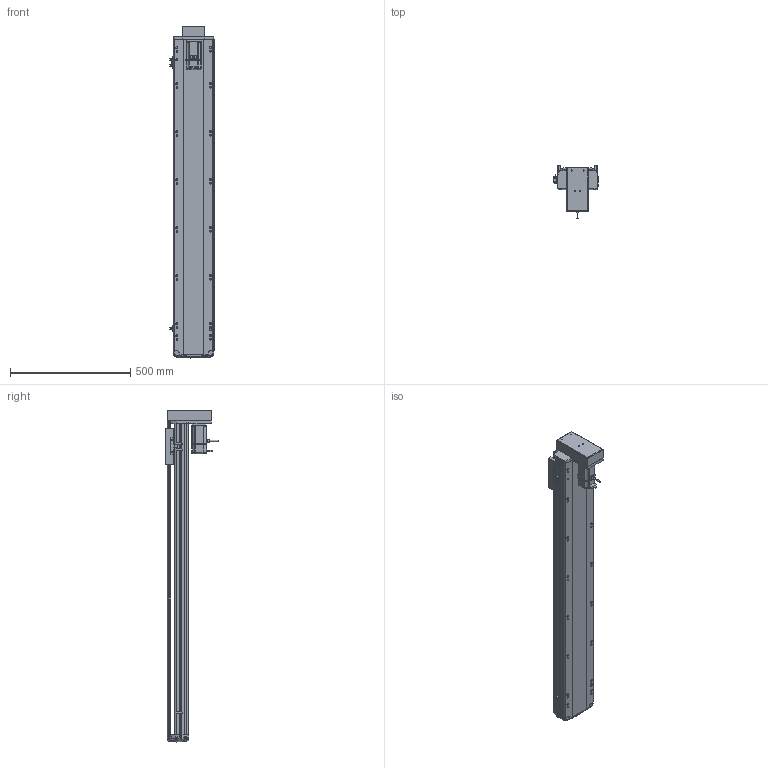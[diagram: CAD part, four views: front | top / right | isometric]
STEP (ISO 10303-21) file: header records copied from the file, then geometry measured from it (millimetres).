
FILE_DESCRIPTION (( 'STEP AP214' ), '1' );
FILE_NAME ('RTH17-XX-1100-M-M40-C4.STEP', '2025-10-24T09:09:29', ( '' ), ( '' ), 'SwSTEP 2.0', 'SolidWorks 2018', '' );
FILE_SCHEMA (( 'AUTOMOTIVE_DESIGN' ));
Length unit declared in the file: millimetre
Products named in the file (10): N_RTH17-M-011底座^RTH17-XX-XX-M-M40-C4（方程式）; N_RTH17-M-008-P40电机安装板下折^RTH17-XX-XX-M-M40-C4（方程式）; N_RTH17-E-004丝杆螺母连接座^RTH17-XX-XX-M-M40-C4（方程式）; N_RTH-BL-012 感应片(外置)^RTH17-XX-XX-M-M40-C4（方程式）; N_RTH17-GY-001P^RTH17-XX-XX-M-M40-C4（方程式）; N_M40^RTH17-XX-XX-M-M40-C4（方程式）; N_RTH17-M-007上盖^RTH17-XX-XX-M-M40-C4（方程式）; N_OMRON EE-SX672 換覜ん^RTH17-XX-XX-M-M40-C4ㄗ源最宒ㄘ; RTH17-XX-1100-M-M40-C4; N_RTH17-M-018盖子^RTH17-XX-XX-M-M40-C4（方程式）
Assembly tree (11 placements, depth 2):
  RTH17-XX-1100-M-M40-C4
    N_RTH17-M-011底座^RTH17-XX-XX-M-M40-C4（方程式）
    N_RTH17-M-007上盖^RTH17-XX-XX-M-M40-C4（方程式）
    N_M40^RTH17-XX-XX-M-M40-C4（方程式）
    N_OMRON EE-SX672 換覜ん^RTH17-XX-XX-M-M40-C4ㄗ源最宒ㄘ  x3
    N_RTH-BL-012 感应片(外置)^RTH17-XX-XX-M-M40-C4（方程式）
    N_RTH17-M-008-P40电机安装板下折^RTH17-XX-XX-M-M40-C4（方程式）
    N_RTH17-M-018盖子^RTH17-XX-XX-M-M40-C4（方程式）
    N_RTH17-E-004丝杆螺母连接座^RTH17-XX-XX-M-M40-C4（方程式）
    N_RTH17-GY-001P^RTH17-XX-XX-M-M40-C4（方程式）
Bounding box: 183.5 x 219 x 1383.19 mm (x, y, z)
Volume: 10567026.5 mm3; surface area: 1477741.9 mm2
Topology: 10 solids, 12 shells, 1695 faces, 4752 edges, 3100 vertices
Faces by surface type: plane 836, cylinder 492, bspline 330, cone 28, torus 9
Entity records: 50120 total; most frequent: CARTESIAN_POINT 20168, ORIENTED_EDGE 6528, DIRECTION 5380, EDGE_CURVE 3268, VERTEX_POINT 2136, LINE 1810, VECTOR 1810, AXIS2_PLACEMENT_3D 1785
